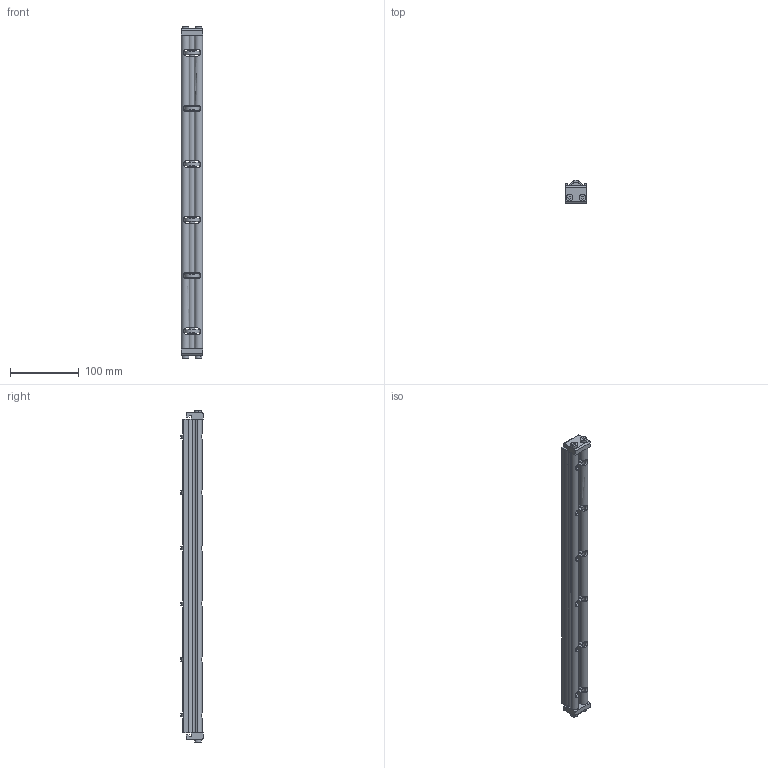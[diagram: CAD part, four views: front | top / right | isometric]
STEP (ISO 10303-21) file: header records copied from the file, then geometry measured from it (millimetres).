
FILE_DESCRIPTION((''),'2;1');
FILE_NAME('324918_ASM','2023-03-14T',('jenni.wallner'),(''),'PRO/ENGINEER BY PARAMETRIC TECHNOLOGY CORPORATION, 2012420','PRO/ENGINEER BY PARAMETRIC TECHNOLOGY CORPORATION, 2012420','');
FILE_SCHEMA(('CONFIG_CONTROL_DESIGN'));
Length unit declared in the file: inch
Products named in the file (7): 2436WW_243618; X920693M; 240826; 240827_CAE; 2410WW_CAE_241018; ASM0001_ASM; 324918_ASM
Assembly tree (15 placements, depth 3):
  324918_ASM
    ASM0001_ASM
      2436WW_243618
      X920693M  x4
      240826  x6
      240827_CAE  x2
      2410WW_CAE_241018
Bounding box: 30.88 x 33.34 x 484.61 mm (x, y, z)
Volume: 230442.7 mm3; surface area: 137821.1 mm2
Topology: 14 solids, 14 shells, 426 faces, 1184 edges, 782 vertices
Faces by surface type: cylinder 192, plane 158, cone 52, torus 24
Entity records: 10451 total; most frequent: CARTESIAN_POINT 2629, ORIENTED_EDGE 1664, DIRECTION 1638, EDGE_CURVE 832, AXIS2_PLACEMENT_3D 622, VERTEX_POINT 554, VECTOR 394, LINE 394
